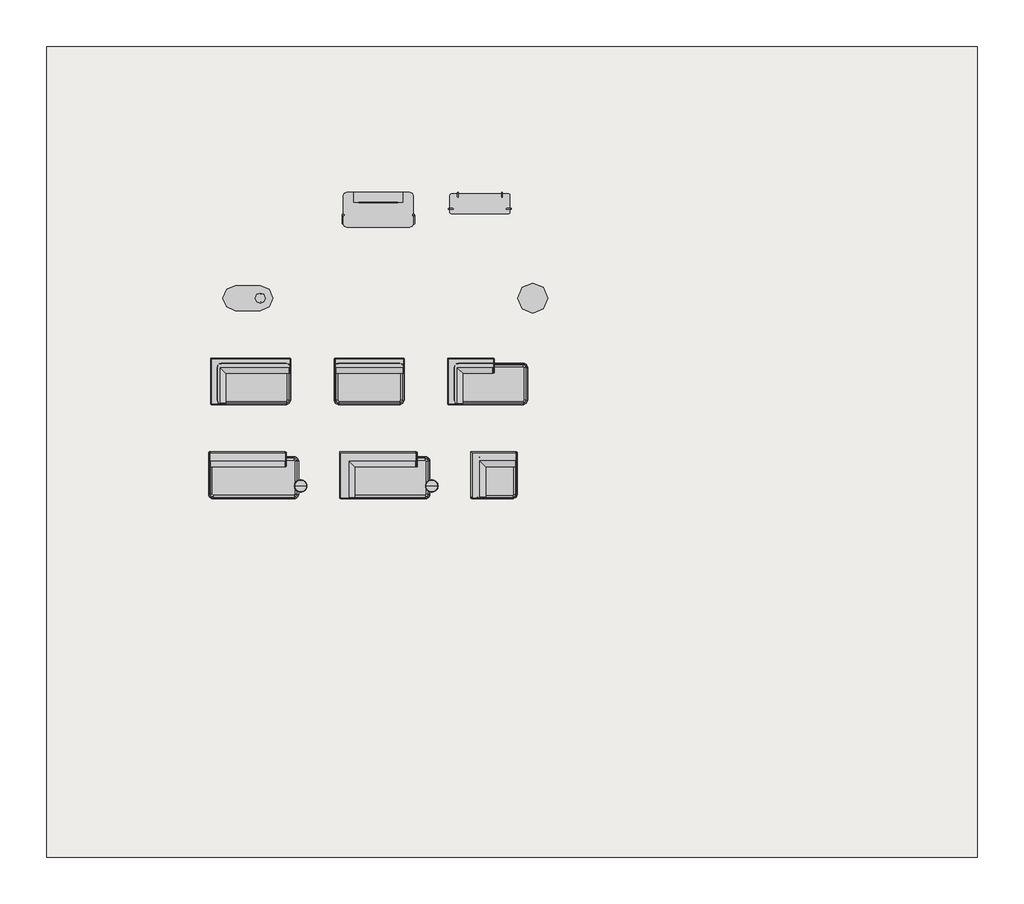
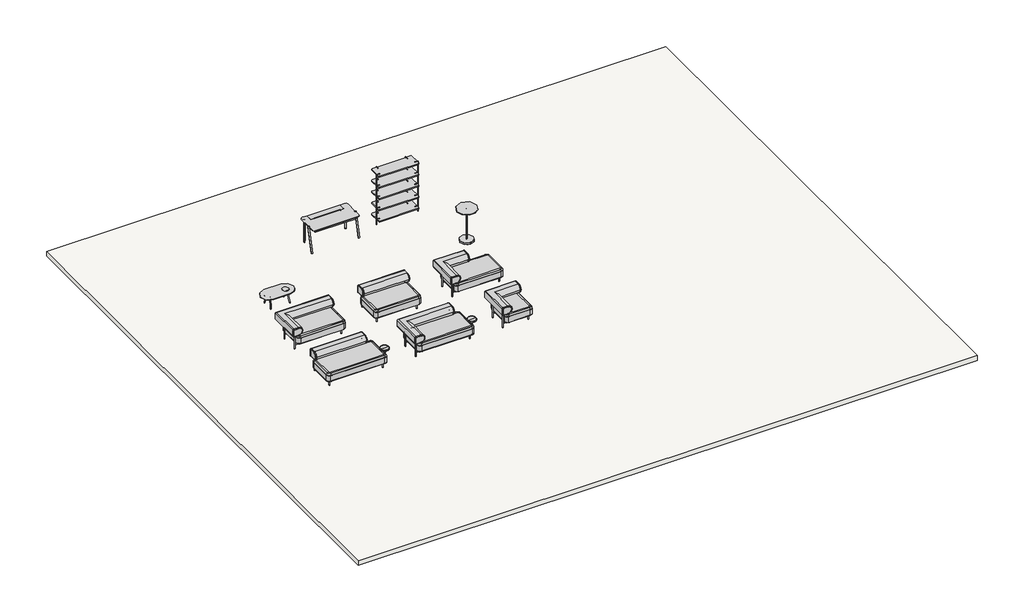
# One storey, incomplete: 10 furniture elements, 1 slab.
"""IFC4 building model written with IfcOpenShell, lengths in millimetres."""

from ifc_helpers import new_model, si_unit, frame, origin, place, context, project, spatial, polyline, outline, extrude, transform, mapped, element, save
from components import furniture_c25ba4bb, furniture_0cf76a5a, furniture_1051e749, furniture_0e16feae, furniture_2f6715d6, furniture_3d6d2a71, module_1_corner_element_module_1_corner_element_ceed143c, module_1_corner_element_module_1_corner_element_61d61d8e, module_2_corner_elongated_element_4280a7bf, module_2_corner_elongated_element_f42900f3, module_3_middle_element_c7384a8f, module_3_middle_element_18c09e5f, module_4_seating_corner_element_8d6210f8, module_5_closing_element_739b21b6, module_5_closing_element_c7924a40, module_6_closing_corner_element_505ae7c1, module_6_closing_corner_element_1f972c7f

model = new_model("IFC4")

# Units and contexts
model_context = context("Model", 3, world=origin())
ifc_project = project(units=[si_unit("LENGTHUNIT", "METRE", prefix="MILLI")], contexts=[model_context])

# Site, building, storey
site = spatial("IfcSite", under=ifc_project)
building = spatial("IfcBuilding", under=site)
storey = spatial("IfcBuildingStorey", under=building, Name="Уровень 1", Elevation=0.0)

# Furniture
placement = place(None, origin())
furniture_shape = furniture_c25ba4bb(model_context)
furniture_2_shape = furniture_0cf76a5a(model_context)
furniture_3_shape = furniture_1051e749(model_context)
element("IfcFurniture", 1, ObjectType="Shelving unit_Friendly : Shelving unit_Friendly", at=placement, inside=storey, context=model_context, shape_type="MappedRepresentation", body=[
    mapped(furniture_shape, transform((-3266.3500179, 4409.933669, 0.0), x_axis=(1.0, 0.0, 0.0), y_axis=(0.0, 1.0, 0.0), z_axis=(0.0, 0.0, 1.0))),
    mapped(furniture_2_shape, transform((-3266.3500179, 4409.933669, 0.0), x_axis=(1.0, 0.0, 0.0), y_axis=(0.0, 1.0, 0.0), z_axis=(0.0, 0.0, 1.0))),
    mapped(furniture_3_shape, transform((-3266.3500179, 4409.933669, 0.0), x_axis=(1.0, 0.0, 0.0), y_axis=(0.0, 1.0, 0.0), z_axis=(0.0, 0.0, 1.0))),
])
furniture_4_shape = furniture_0e16feae(model_context)
element("IfcFurniture", 2, ObjectType="Bar table_Friendly : Bar table_Friendly", at=placement, inside=storey, context=model_context, shape_type="MappedRepresentation", body=[
    mapped(furniture_4_shape, transform((-2209.4239997, 2297.0873214, 0.0), x_axis=(1.0, 0.0, 0.0), y_axis=(0.0, 1.0, 0.0), z_axis=(0.0, 0.0, 1.0))),
])
furniture_5_shape = furniture_2f6715d6(model_context)
element("IfcFurniture", 3, ObjectType="Coffee table_Friendly : Coffee table_Friendly", at=placement, inside=storey, context=model_context, shape_type="MappedRepresentation", body=[
    mapped(furniture_5_shape, transform((-7901.2847267, 2297.0873214, 0.0), x_axis=(1.0, 0.0, 0.0), y_axis=(0.0, 1.0, 0.0), z_axis=(0.0, 0.0, 1.0))),
])
furniture_6_shape = furniture_3d6d2a71(model_context)
element("IfcFurniture", 4, ObjectType="Desk_Friendly : Desk_Friendly", at=placement, inside=storey, context=model_context, shape_type="MappedRepresentation", body=[
    mapped(furniture_6_shape, transform((-5293.0991977, 4409.933669, 0.0), x_axis=(1.0, 0.0, 0.0), y_axis=(0.0, 1.0, 0.0), z_axis=(0.0, 0.0, 1.0))),
])
module_1_corner_element_module_1_corner_element_shape = module_1_corner_element_module_1_corner_element_ceed143c(model_context)
module_1_corner_element_module_1_corner_element_2_shape = module_1_corner_element_module_1_corner_element_61d61d8e(model_context)
element("IfcFurniture", 5, ObjectType="Module 1 (Corner element) : Module 1 (Corner element)", at=placement, inside=storey, context=model_context, shape_type="MappedRepresentation", body=[
    mapped(module_1_corner_element_module_1_corner_element_shape, transform((-3346.3500179, -778.6307051, 0.0), x_axis=(1.0, 0.0, 0.0), y_axis=(0.0, 1.0, 0.0), z_axis=(0.0, 0.0, 1.0))),
    mapped(module_1_corner_element_module_1_corner_element_2_shape, transform((-3346.3500179, -778.6307051, 0.0), x_axis=(1.0, 0.0, 0.0), y_axis=(0.0, 1.0, 0.0), z_axis=(0.0, 0.0, 1.0))),
])
module_2_corner_elongated_element_shape = module_2_corner_elongated_element_4280a7bf(model_context)
module_2_corner_elongated_element_2_shape = module_2_corner_elongated_element_f42900f3(model_context)
element("IfcFurniture", 6, ObjectType="Module 2 (Corner elongated element) : 1600х930х710мм", at=placement, inside=storey, context=model_context, shape_type="MappedRepresentation", body=[
    mapped(module_2_corner_elongated_element_shape, transform((-8516.1593152, 1096.6590793, 0.0), x_axis=(1.0, 0.0, 0.0), y_axis=(0.0, 1.0, 0.0), z_axis=(0.0, 0.0, 1.0))),
    mapped(module_2_corner_elongated_element_2_shape, transform((-8516.1593152, 1096.6590793, 0.0), x_axis=(1.0, 0.0, 0.0), y_axis=(0.0, 1.0, 0.0), z_axis=(0.0, 0.0, 1.0))),
])
module_3_middle_element_shape = module_3_middle_element_c7384a8f(model_context)
module_3_middle_element_2_shape = module_3_middle_element_18c09e5f(model_context)
element("IfcFurniture", 7, ObjectType="Module 3 (Middle element) : 1400х930х710мм", at=placement, inside=storey, context=model_context, shape_type="MappedRepresentation", body=[
    mapped(module_3_middle_element_shape, transform((-6178.061607, 1096.6590793, 0.0), x_axis=(1.0, 0.0, 0.0), y_axis=(0.0, 1.0, 0.0), z_axis=(0.0, 0.0, 1.0))),
    mapped(module_3_middle_element_2_shape, transform((-6178.061607, 1096.6590793, 0.0), x_axis=(1.0, 0.0, 0.0), y_axis=(0.0, 1.0, 0.0), z_axis=(0.0, 0.0, 1.0))),
])
module_4_seating_corner_element_shape = module_4_seating_corner_element_8d6210f8(model_context)
element("IfcFurniture", 8, ObjectType="Module 4 (Seating corner element) : 1600х930х710мм", at=placement, inside=storey, context=model_context, shape_type="MappedRepresentation", body=[
    mapped(module_4_seating_corner_element_shape, transform((-3779.6856757, 1096.6590793, 0.0), x_axis=(1.0, 0.0, 0.0), y_axis=(0.0, 1.0, 0.0), z_axis=(0.0, 0.0, 1.0))),
    mapped(module_2_corner_elongated_element_2_shape, transform((-3779.6856757, 1096.6590793, 0.0), x_axis=(1.0, 0.0, 0.0), y_axis=(0.0, 1.0, 0.0), z_axis=(0.0, 0.0, 1.0))),
])
module_5_closing_element_shape = module_5_closing_element_739b21b6(model_context)
module_5_closing_element_2_shape = module_5_closing_element_c7924a40(model_context)
element("IfcFurniture", 9, ObjectType="Module 5 (Closing element) : 1800х930х710мм", at=placement, inside=storey, context=model_context, shape_type="MappedRepresentation", body=[
    mapped(module_5_closing_element_shape, transform((-8686.3500179, -778.6307051, 0.0), x_axis=(1.0, 0.0, 0.0), y_axis=(0.0, 1.0, 0.0), z_axis=(0.0, 0.0, 1.0))),
    mapped(module_5_closing_element_2_shape, transform((-8686.3500179, -778.6307051, 0.0), x_axis=(1.0, 0.0, 0.0), y_axis=(0.0, 1.0, 0.0), z_axis=(0.0, 0.0, 1.0))),
])
module_6_closing_corner_element_shape = module_6_closing_corner_element_505ae7c1(model_context)
module_6_closing_corner_element_2_shape = module_6_closing_corner_element_1f972c7f(model_context)
element("IfcFurniture", 10, ObjectType="Module 6 (Closing corner element) : 1800х930х710мм", at=placement, inside=storey, context=model_context, shape_type="MappedRepresentation", body=[
    mapped(module_6_closing_corner_element_shape, transform((-5966.3500179, -778.6307051, 0.0), x_axis=(1.0, 0.0, 0.0), y_axis=(0.0, 1.0, 0.0), z_axis=(0.0, 0.0, 1.0))),
    mapped(module_6_closing_corner_element_2_shape, transform((-5966.3500179, -778.6307051, 0.0), x_axis=(1.0, 0.0, 0.0), y_axis=(0.0, 1.0, 0.0), z_axis=(0.0, 0.0, 1.0))),
])

# Slab
element("IfcSlab", 11, ObjectType="Типовой 150мм", at=placement, inside=storey, context=model_context, shape_type="SweptSolid", body=[
    extrude(outline(polyline([(6675.8969064, 7321.823164), (6675.8969064, -8878.176836), (-11924.1030936, -8878.176836), (-11924.1030936, 7321.823164), (6675.8969064, 7321.823164)])), frame((0.0, 0.0, -150.0), z_axis=(0.0, 0.0, 1.0), x_axis=(1.0, 0.0, 0.0)), (0.0, 0.0, 1.0), 150.0),
])

save(model, "model.ifc")
